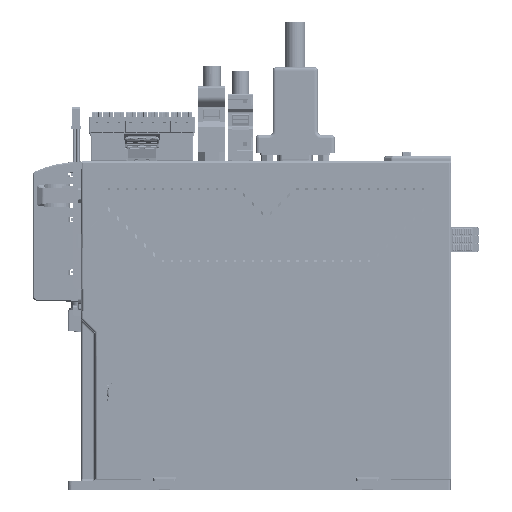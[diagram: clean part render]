
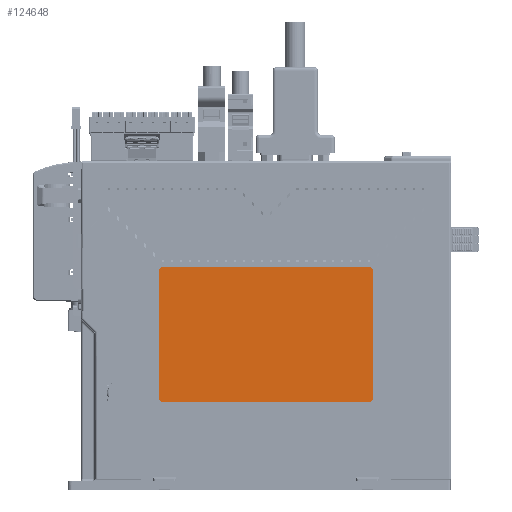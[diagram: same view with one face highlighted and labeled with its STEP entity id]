
A CAD part, left-side view. The second image highlights one B-rep face of the part: STEP entity #124648.
In plain terms, the highlighted planar face has unit normal (-1, 0, 0).
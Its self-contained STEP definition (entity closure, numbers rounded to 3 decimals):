
#36187=DIRECTION('',(0.,0.,1.));
#36188=VECTOR('',#36187,56.);
#36189=CARTESIAN_POINT('',(-24.7,-47.5,41.));
#36190=LINE('',#36189,#36188);
#36199=CARTESIAN_POINT('',(-24.7,45.5,97.));
#36200=DIRECTION('',(1.,0.,0.));
#36201=DIRECTION('',(0.,1.,0.));
#36202=AXIS2_PLACEMENT_3D('',#36199,#36200,#36201);
#36204=DIRECTION('',(0.,-1.,0.));
#36205=VECTOR('',#36204,91.);
#36206=CARTESIAN_POINT('',(-24.7,45.5,99.));
#36207=LINE('',#36206,#36205);
#36208=CARTESIAN_POINT('',(-24.7,-45.5,97.));
#36209=DIRECTION('',(1.,0.,0.));
#36210=DIRECTION('',(0.,0.,1.));
#36211=AXIS2_PLACEMENT_3D('',#36208,#36209,#36210);
#36213=CARTESIAN_POINT('',(-24.7,-45.5,41.));
#36214=DIRECTION('',(1.,0.,0.));
#36215=DIRECTION('',(0.,-1.,0.));
#36216=AXIS2_PLACEMENT_3D('',#36213,#36214,#36215);
#36218=DIRECTION('',(0.,1.,0.));
#36219=VECTOR('',#36218,91.);
#36220=CARTESIAN_POINT('',(-24.7,-45.5,39.));
#36221=LINE('',#36220,#36219);
#36222=CARTESIAN_POINT('',(-24.7,45.5,41.));
#36223=DIRECTION('',(1.,0.,0.));
#36224=DIRECTION('',(0.,0.,-1.));
#36225=AXIS2_PLACEMENT_3D('',#36222,#36223,#36224);
#36227=DIRECTION('',(0.,0.,1.));
#36228=VECTOR('',#36227,56.);
#36229=CARTESIAN_POINT('',(-24.7,47.5,41.));
#36230=LINE('',#36229,#36228);
#78376=CARTESIAN_POINT('',(-24.7,-47.5,97.));
#78377=VERTEX_POINT('',#78376);
#78378=CARTESIAN_POINT('',(-24.7,-47.5,41.));
#78379=VERTEX_POINT('',#78378);
#78380=CARTESIAN_POINT('',(-24.7,-45.5,99.));
#78381=VERTEX_POINT('',#78380);
#78382=CARTESIAN_POINT('',(-24.7,47.5,97.));
#78383=CARTESIAN_POINT('',(-24.7,45.5,99.));
#78384=VERTEX_POINT('',#78382);
#78385=VERTEX_POINT('',#78383);
#78386=CARTESIAN_POINT('',(-24.7,-45.5,39.));
#78387=VERTEX_POINT('',#78386);
#78388=CARTESIAN_POINT('',(-24.7,45.5,39.));
#78389=VERTEX_POINT('',#78388);
#78390=CARTESIAN_POINT('',(-24.7,47.5,41.));
#78391=VERTEX_POINT('',#78390);
#124627=CARTESIAN_POINT('',(-24.7,0.,69.));
#124628=DIRECTION('',(1.,0.,0.));
#124629=DIRECTION('',(0.,-1.,0.));
#124630=AXIS2_PLACEMENT_3D('',#124627,#124628,#124629);
#124631=PLANE('',#124630);
#124633=ORIENTED_EDGE('',*,*,#124632,.T.);
#124635=ORIENTED_EDGE('',*,*,#124634,.T.);
#124636=ORIENTED_EDGE('',*,*,#124618,.T.);
#124637=ORIENTED_EDGE('',*,*,#124608,.F.);
#124639=ORIENTED_EDGE('',*,*,#124638,.T.);
#124641=ORIENTED_EDGE('',*,*,#124640,.T.);
#124643=ORIENTED_EDGE('',*,*,#124642,.T.);
#124645=ORIENTED_EDGE('',*,*,#124644,.T.);
#124646=EDGE_LOOP('',(#124633,#124635,#124636,#124637,#124639,#124641,#124643,
#124645));
#124647=FACE_OUTER_BOUND('',#124646,.F.);
#36203=CIRCLE('',#36202,2.);
#36212=CIRCLE('',#36211,2.);
#36217=CIRCLE('',#36216,2.);
#36226=CIRCLE('',#36225,2.);
#124608=EDGE_CURVE('',#78379,#78377,#36190,.T.);
#124618=EDGE_CURVE('',#78381,#78377,#36212,.T.);
#124632=EDGE_CURVE('',#78384,#78385,#36203,.T.);
#124634=EDGE_CURVE('',#78385,#78381,#36207,.T.);
#124638=EDGE_CURVE('',#78379,#78387,#36217,.T.);
#124640=EDGE_CURVE('',#78387,#78389,#36221,.T.);
#124642=EDGE_CURVE('',#78389,#78391,#36226,.T.);
#124644=EDGE_CURVE('',#78391,#78384,#36230,.T.);
#124648=ADVANCED_FACE('',(#124647),#124631,.F.);
